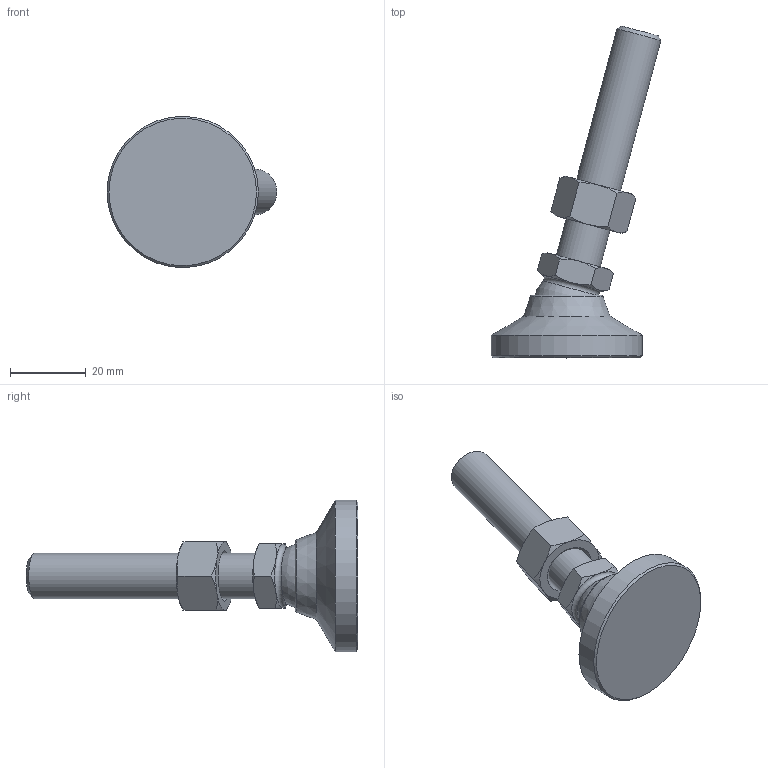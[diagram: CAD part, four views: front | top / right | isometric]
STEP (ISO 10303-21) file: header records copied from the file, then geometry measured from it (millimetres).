
FILE_DESCRIPTION( ( 'STEP AP214' ), ' ' );
FILE_NAME( 'O:/ganter_2015/teil_2/2_5/gn343_2/gn343_2_os/Levelling foot with threaded stud GN 343.2-40-M12-63-OS-(-15).stp', '2015-10-26T09:07:27', ( '' ), ( '' ), ' ', 'PARTsolutions', ' ' );
FILE_SCHEMA( ( 'AUTOMOTIVE_DESIGN { 1 0 10303 214 1 1 1 1 }' ) );
Length unit declared in the file: millimetre
Products named in the file (4): Levelling foot with threaded stud GN 343.2-40-M12-63-OS-(-15); _Levelling foot with threaded stud GN 343.2-40-M12-63-OS-(-15)_foot; _Levelling foot with threaded stud GN 343.2-40-M12-63-OS-(-15)_screw; _Stainless Steel-Levelling feet GN 343.2-40-M12-63-OS-(-15)_nut
Assembly tree (3 placements, depth 2):
  Levelling foot with threaded stud GN 343.2-40-M12-63-OS-(-15)
    _Levelling foot with threaded stud GN 343.2-40-M12-63-OS-(-15)_foot
    _Levelling foot with threaded stud GN 343.2-40-M12-63-OS-(-15)_screw
    _Stainless Steel-Levelling feet GN 343.2-40-M12-63-OS-(-15)_nut
Bounding box: 44.89 x 87.75 x 40 mm (x, y, z)
Volume: 24818.2 mm3; surface area: 9129.9 mm2
Topology: 3 solids, 3 shells, 55 faces, 116 edges, 67 vertices
Faces by surface type: cone 30, plane 18, cylinder 3, torus 2, sphere 2
Full cylindrical faces by diameter (mm): 10.106 x1, 12 x1, 40 x1
Entity records: 2038 total; most frequent: CARTESIAN_POINT 495, DIRECTION 208, ORIENTED_EDGE 198, EDGE_CURVE 99, AXIS2_PLACEMENT_3D 98, EDGE_LOOP 70, VERTEX_POINT 65, FACE_OUTER_BOUND 60
